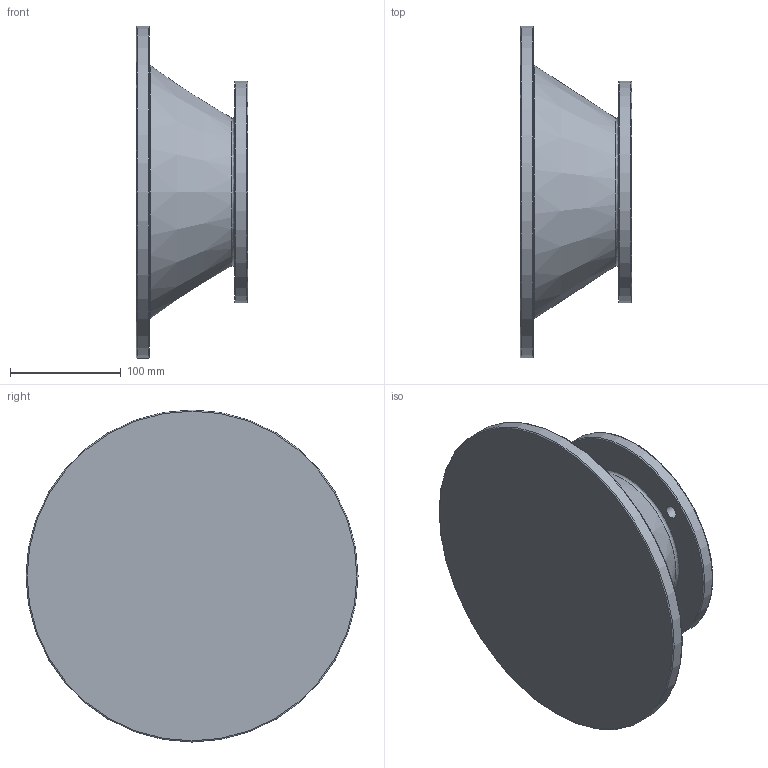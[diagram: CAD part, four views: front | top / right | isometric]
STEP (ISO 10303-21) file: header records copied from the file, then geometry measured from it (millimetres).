
FILE_DESCRIPTION((''),'2;1');
FILE_NAME('D:\PAWEŁ\ZLECENIA\DualSystem\001 Modele\DKAB90_\DK_90_STEP\90_B5_L57,5.stp','2011-11-26T10:03:07',('Pawe'),(''),'Autodesk Inventor 2009','Autodesk Inventor 2009','');
FILE_SCHEMA(('AUTOMOTIVE_DESIGN { 1 0 10303 214 1 1 1 1 }'));
Length unit declared in the file: millimetre
Products named in the file (1): 90_B5_L57,5
Bounding box: 101 x 300 x 300 mm (x, y, z)
Volume: 1440009 mm3; surface area: 307446.9 mm2
Topology: 1 solids, 1 shells, 30 faces, 58 edges, 36 vertices
Faces by surface type: plane 11, cylinder 6, bspline 6, torus 5, cone 2
Full cylindrical faces by diameter (mm): 44 x1, 115.692 x1, 130 x1, 200 x1, 300 x1
Entity records: 895 total; most frequent: CARTESIAN_POINT 281, DIRECTION 120, ORIENTED_EDGE 80, EDGE_LOOP 62, AXIS2_PLACEMENT_3D 55, EDGE_CURVE 40, VERTEX_POINT 36, FACE_BOUND 32
